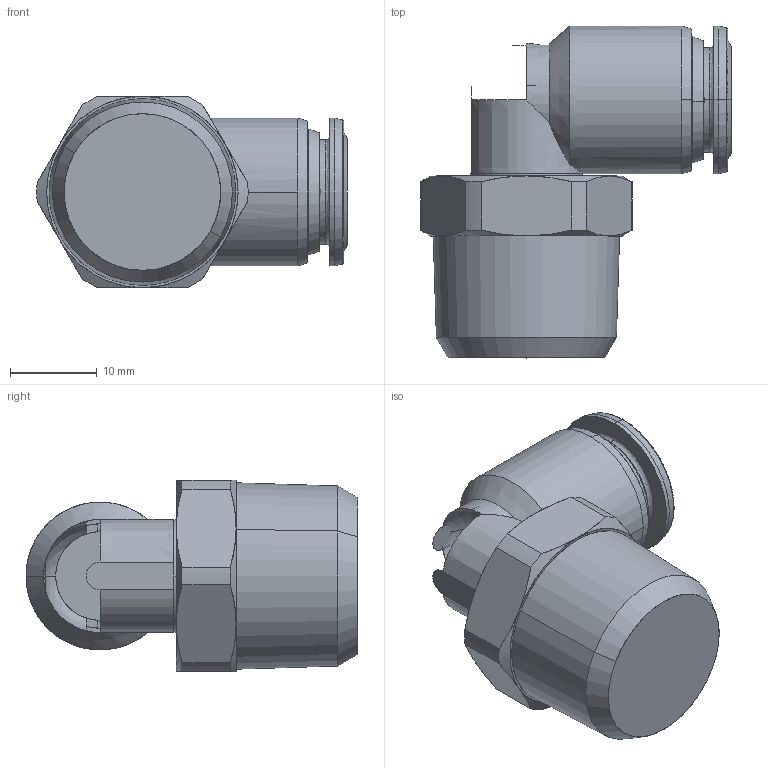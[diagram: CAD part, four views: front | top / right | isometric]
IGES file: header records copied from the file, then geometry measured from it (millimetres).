
Start section: SolidWorks IGES file using analytic representation for surfaces
Global section: file name: K:\Disegni Esecutivi\SERIE 60000X inox 316\DOK\60000X sito da controllare\60110X\60110X0009.IGS; native system: SolidWorks 2020; preprocessor: SolidWorks 2020; author: CAD13; date: 240828.141829; units: millimetre
Bounding box: 35.7 x 38.15 x 22 mm (x, y, z)
Surface area: 4681.7 mm2 (no closed solid volume)
Topology: 0 solids, 0 shells, 112 faces, 1440 edges, 1438 vertices
Faces by surface type: revolution 68, bspline 44
